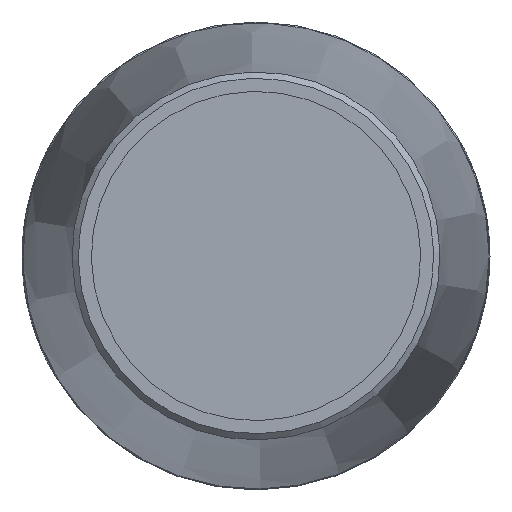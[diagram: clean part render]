
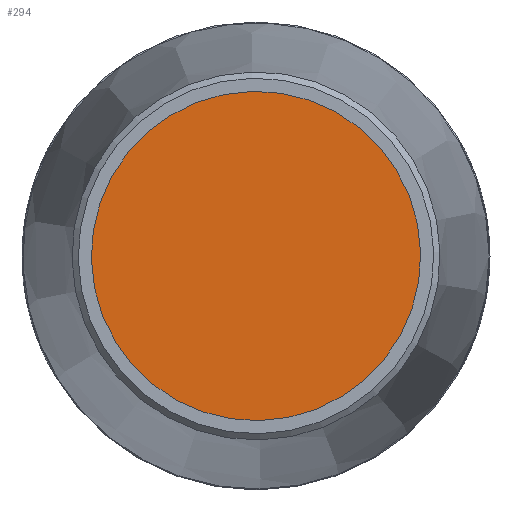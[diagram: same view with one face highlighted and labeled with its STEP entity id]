
A CAD part, left-side view. The second image highlights one B-rep face of the part: STEP entity #294.
In plain terms, the highlighted planar face has unit normal (-1, 0, 0).
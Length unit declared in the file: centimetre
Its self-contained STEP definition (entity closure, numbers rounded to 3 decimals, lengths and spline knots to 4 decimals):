
#48=PLANE('',#329);
#77=FACE_OUTER_BOUND('',#108,.T.);
#108=EDGE_LOOP('',(#214));
#134=CIRCLE('',#328,1.425);
#148=VERTEX_POINT('',#455);
#174=EDGE_CURVE('',#148,#148,#134,.T.);
#214=ORIENTED_EDGE('',*,*,#174,.T.);
#294=ADVANCED_FACE('',(#77),#48,.T.);
#328=AXIS2_PLACEMENT_3D('',#456,#387,#388);
#329=AXIS2_PLACEMENT_3D('',#457,#389,#390);
#387=DIRECTION('center_axis',(-1.,0.,0.));
#388=DIRECTION('ref_axis',(0.,-0.779,-0.627));
#389=DIRECTION('center_axis',(-1.,0.,0.));
#390=DIRECTION('ref_axis',(0.,-0.779,-0.627));
#455=CARTESIAN_POINT('',(-9.9,0.8937,-1.1099));
#456=CARTESIAN_POINT('Origin',(-9.9,0.,0.));
#457=CARTESIAN_POINT('Origin',(-9.9,0.,0.));
